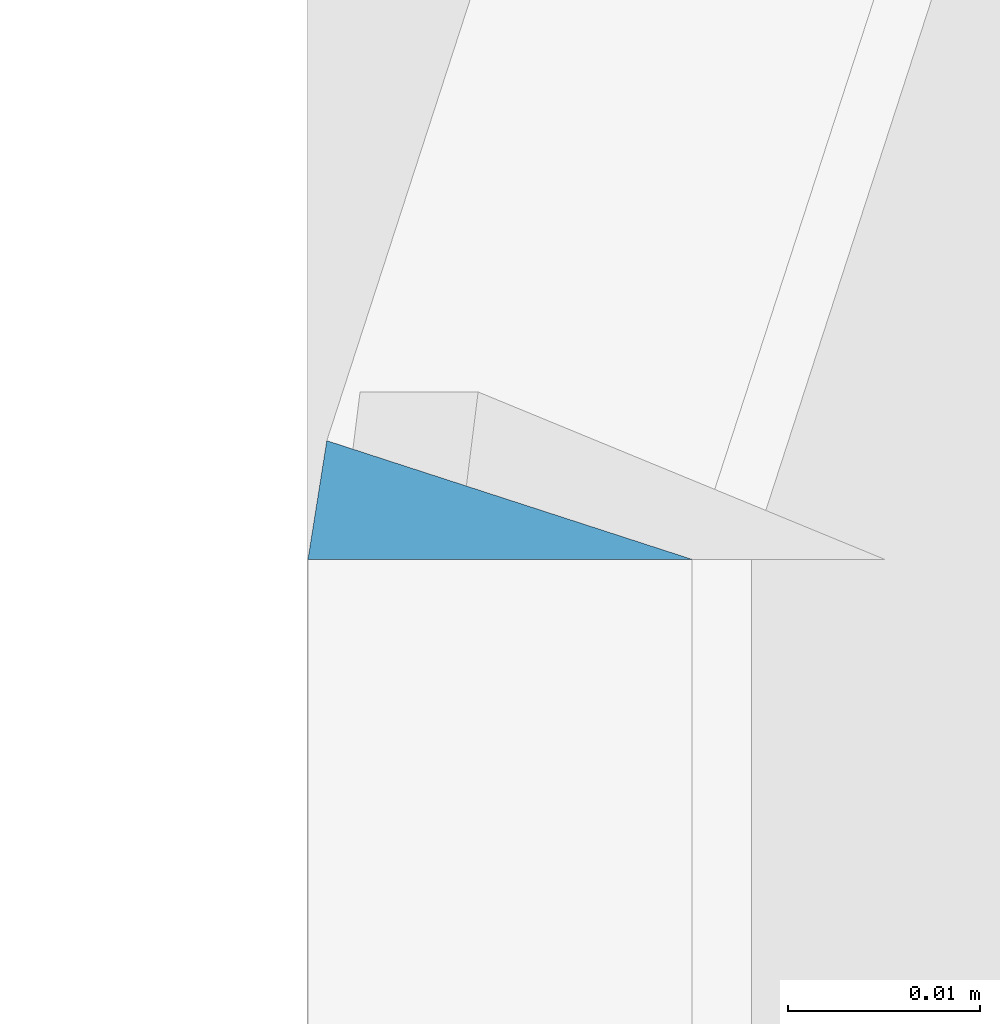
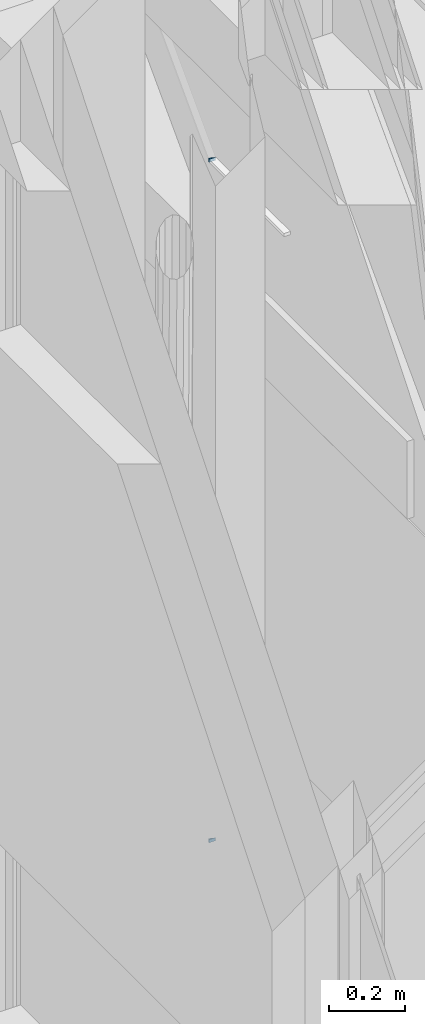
# One storey, part 316 of 583: 2 slabs.
"""IFC2X3 building model written with IfcOpenShell, lengths in metres."""

import ifcopenshell
import ifcopenshell.guid

model = None  # the IFC model being written
_history = None  # IfcOwnerHistory: only IFC2X3 demands one
_inside = {}  # id of a spatial element -> (the spatial element, [elements in it])
_under = {}  # id of a project, library or spatial element -> (it, [spatial elements below it])
_declared = {}  # id of a project -> (the project, [libraries it declares])
_typed = {}  # id of a type object -> (the type object, [elements of that type])
_made_of = {}  # id of a material, layer set ... -> (it, [elements and type objects made of it])


def new_model(schema):
    """Start an empty IFC model of exactly this schema.

    Asked for "IFC4X3", IfcOpenShell would pick the latest addendum, in which some entities
    have other attributes; the version numbers below select the first issue.
    IFC2X3 requires an IfcOwnerHistory on every rooted entity: one is made here for all.
    """
    global model, _history
    if schema == "IFC4X3":
        model = ifcopenshell.file(schema_version=(4, 3, 0, 0))
    else:
        model = ifcopenshell.file(schema=schema)
    _inside.clear()
    _under.clear()
    _declared.clear()
    _typed.clear()
    _made_of.clear()
    _history = None
    if model.schema == "IFC2X3":
        org = make("IfcOrganization", Name="unknown")
        user = make(
            "IfcPersonAndOrganization",
            ThePerson=make("IfcPerson", FamilyName="unknown"),
            TheOrganization=org,
        )
        app = make(
            "IfcApplication",
            ApplicationDeveloper=org,
            Version="unknown",
            ApplicationFullName="unknown",
            ApplicationIdentifier="unknown",
        )
        _history = make(
            "IfcOwnerHistory",
            OwningUser=user,
            OwningApplication=app,
            ChangeAction="ADDED",
            CreationDate=0,
        )
    return model


def make(cls, **values):
    """One entity of the class cls with the attributes given. An attribute that is None is left unset."""
    return model.create_entity(
        cls, **{name: value for name, value in values.items() if value is not None}
    )


def entity(cls, *values):
    """Any entity or typed value of the class cls, its attributes in the order of the schema. None: left unset."""
    e = model.create_entity(cls)
    for i, value in enumerate(values):
        if value is not None:
            e[i] = value
    return e


def rooted(cls, **values):
    """An entity with a GlobalId (a new one), such as an element, a storey or a relation."""
    return make(cls, GlobalId=ifcopenshell.guid.new(), OwnerHistory=_history, **values)


def si_unit(unit_type, name, prefix=None):
    """IfcSIUnit, for example si_unit("LENGTHUNIT", "METRE", prefix="MILLI")."""
    return make("IfcSIUnit", UnitType=unit_type, Prefix=prefix, Name=name)


def converted_unit(unit_type, name, factor, base, dimensions=None, offset=None):
    """IfcConversionBasedUnit, such as the inch: factor (a typed value) times the base unit."""
    return make(
        "IfcConversionBasedUnit"
        if offset is None
        else "IfcConversionBasedUnitWithOffset",
        ConversionOffset=offset,
        Dimensions=None
        if dimensions is None
        else entity("IfcDimensionalExponents", *dimensions),
        UnitType=unit_type,
        Name=name,
        ConversionFactor=make(
            "IfcMeasureWithUnit", ValueComponent=factor, UnitComponent=base
        ),
    )


def derived_unit(unit_type, elements):
    """IfcDerivedUnit: a product of units, each with its exponent."""
    return make(
        "IfcDerivedUnit",
        Elements=[
            make("IfcDerivedUnitElement", Unit=unit, Exponent=power)
            for unit, power in elements
        ],
        UnitType=unit_type,
    )


def money_unit(currency):
    """IfcMonetaryUnit."""
    return make("IfcMonetaryUnit", Currency=currency)


def assignment(units):
    """IfcUnitAssignment: the units of a project."""
    return None if units is None else make("IfcUnitAssignment", Units=units)


def point(xyz):
    """IfcCartesianPoint."""
    return None if xyz is None else make("IfcCartesianPoint", Coordinates=xyz)


def direction(xyz):
    """IfcDirection."""
    return None if xyz is None else make("IfcDirection", DirectionRatios=xyz)


def frame(location, z_axis=None, x_axis=None):
    """IfcAxis2Placement3D, a coordinate frame: its origin and axes. An axis left out is left unset."""
    return make(
        "IfcAxis2Placement3D",
        Location=point(location),
        Axis=direction(z_axis),
        RefDirection=direction(x_axis),
    )


def origin_with_axes():
    """The frame at (0, 0, 0) with the z axis (0, 0, 1) and the x axis (1, 0, 0) written out."""
    return frame((0.0, 0.0, 0.0), z_axis=(0.0, 0.0, 1.0), x_axis=(1.0, 0.0, 0.0))


def place(relative_to, where):
    """IfcLocalPlacement: puts the frame where relative to a parent placement (None: the world)."""
    return make(
        "IfcLocalPlacement", PlacementRelTo=relative_to, RelativePlacement=where
    )


def context(
    kind, dimensions, precision=None, world=None, true_north=None, identifier=None
):
    """IfcGeometricRepresentationContext, for example the 3D "Model" context."""
    return make(
        "IfcGeometricRepresentationContext",
        ContextIdentifier=identifier,
        ContextType=kind,
        CoordinateSpaceDimension=dimensions,
        Precision=precision,
        WorldCoordinateSystem=world,
        TrueNorth=true_north,
    )


def subcontext(parent, identifier, kind, view, scale=None):
    """IfcGeometricRepresentationSubContext, for example "Body" below "Model"."""
    return make(
        "IfcGeometricRepresentationSubContext",
        ContextIdentifier=identifier,
        ContextType=kind,
        ParentContext=parent,
        TargetScale=scale,
        TargetView=view,
    )


def project(units=None, contexts=None):
    """IfcProject with its units and contexts."""
    return rooted(
        "IfcProject",
        Name="project",
        RepresentationContexts=contexts,
        UnitsInContext=assignment(units),
    )


def spatial(cls, under=None, at=None, **own):
    """A site, building, storey or space (cls), placed at a placement, below another one or the project."""
    s = rooted(cls, ObjectPlacement=at, **own)
    if under is not None:
        _under.setdefault(under.id(), (under, []))[1].append(s)
    return s


def faces_of(points, faces, orient=None, outer=None):
    """IfcFace entities. A face is a list of loops; a loop is a list of indices into points, from 0.

    orient and outer hold one flag for each loop. By default every Orientation is true, the
    first loop of a face is its IfcFaceOuterBound and the others are IfcFaceBound.
    """
    made = []
    for i, loops in enumerate(faces):
        bounds = []
        for j, loop in enumerate(loops):
            is_outer = j == 0 if outer is None else outer[i][j]
            bounds.append(
                make(
                    "IfcFaceOuterBound" if is_outer else "IfcFaceBound",
                    Bound=make("IfcPolyLoop", Polygon=[points[k] for k in loop]),
                    Orientation=True if orient is None else orient[i][j],
                )
            )
        made.append(make("IfcFace", Bounds=bounds))
    return made


def faceted_brep(points, faces, orient=None, outer=None, voids=None):
    """IfcFacetedBrep: a solid bounded by flat faces; with voids (closed shells), ...WithVoids."""
    shared = [point(p) for p in points]
    hull = make("IfcClosedShell", CfsFaces=faces_of(shared, faces, orient, outer))
    if voids is None:
        return make("IfcFacetedBrep", Outer=hull)
    return make(
        "IfcFacetedBrepWithVoids",
        Outer=hull,
        Voids=[
            make(cls, CfsFaces=faces_of(shared, fs, o, b)) for cls, fs, o, b in voids
        ],
    )


def shape(context_of_items, identifier, shape_type, items):
    """IfcShapeRepresentation: the items that make up one representation, for example the "Body"."""
    return make(
        "IfcShapeRepresentation",
        ContextOfItems=context_of_items,
        RepresentationIdentifier=identifier,
        RepresentationType=shape_type,
        Items=items,
    )


def material(Name=None, Category=None):
    """IfcMaterial."""
    return make("IfcMaterial", Name=Name, Category=Category)


def made_of(thing, what):
    """Note that an element or type object is made of a material, layer set ...; save() writes the relation."""
    if what is not None:
        _made_of.setdefault(what.id(), (what, []))[1].append(thing)
    return thing


def type_object(cls, material=None, **own):
    """A type object (cls), such as IfcWallType, which elements share."""
    return made_of(rooted(cls, **own), material)


def element(
    cls,
    number,
    at=None,
    inside=None,
    cuts=None,
    type_object=None,
    material=None,
    context=None,
    identifier="Body",
    shape_type=None,
    held_by="IfcProductDefinitionShape",
    body=None,
    shapes=None,
    **own,
):
    """One element of the class cls, such as IfcWall. Its Tag is "e" and its number.

    at: its placement. inside: the storey or other place that contains it. cuts: it is an
    opening in that element (IfcRelVoidsElement). A single representation is given by context,
    identifier, shape_type and body (its items); several are given by shapes. held_by: the class
    of the entity that holds the representations. save() writes the other relations.
    """
    e = rooted(cls, Tag="e%d" % number, ObjectPlacement=at, **own)
    if body is not None:
        shapes = [shape(context, identifier, shape_type, body)]
    if shapes is not None:
        e.Representation = make(held_by, Representations=shapes)
    if inside is not None:
        _inside.setdefault(inside.id(), (inside, []))[1].append(e)
    if cuts is not None:
        rooted(
            "IfcRelVoidsElement", RelatingBuildingElement=cuts, RelatedOpeningElement=e
        )
    if type_object is not None:
        _typed.setdefault(type_object.id(), (type_object, []))[1].append(e)
    return made_of(e, material)


def aggregate(whole, parts):
    """IfcRelAggregates: a whole, such as a stair, and the parts it consists of."""
    return rooted("IfcRelAggregates", RelatingObject=whole, RelatedObjects=parts)


def save(model, path):
    """Write the relations noted so far, then the file.

    IfcRelAggregates (storeys below a building ...), IfcRelContainedInSpatialStructure (elements
    in a storey), IfcRelDefinesByType, IfcRelAssociatesMaterial and IfcRelDeclares: one each for
    every whole, place, type object, material and project.
    """
    for whole, parts in _under.values():
        aggregate(whole, parts)
    for where, things in _inside.values():
        rooted(
            "IfcRelContainedInSpatialStructure",
            RelatedElements=things,
            RelatingStructure=where,
        )
    for kind, things in _typed.values():
        rooted("IfcRelDefinesByType", RelatedObjects=things, RelatingType=kind)
    for what, things in _made_of.values():
        rooted("IfcRelAssociatesMaterial", RelatedObjects=things, RelatingMaterial=what)
    for by, libraries in _declared.values():
        rooted("IfcRelDeclares", RelatingContext=by, RelatedDefinitions=libraries)
    model.write(path)


model = new_model("IFC2X3")

# Units and contexts
model_context = context("Model", 3, precision=1e-05, world=origin_with_axes(), true_north=direction((0.0, 1.0)))
body_context = subcontext(model_context, "Body", "Model", "MODEL_VIEW", scale=1.0)
ifc_project = project(units=[si_unit("LENGTHUNIT", "METRE"), si_unit("AREAUNIT", "SQUARE_METRE"), si_unit("VOLUMEUNIT", "CUBIC_METRE"), si_unit("ABSORBEDDOSEUNIT", "GRAY"), si_unit("AMOUNTOFSUBSTANCEUNIT", "MOLE"), si_unit("DOSEEQUIVALENTUNIT", "SIEVERT"), si_unit("ELECTRICCAPACITANCEUNIT", "FARAD"), si_unit("ELECTRICCHARGEUNIT", "COULOMB"), si_unit("ELECTRICCONDUCTANCEUNIT", "SIEMENS"), si_unit("ELECTRICCURRENTUNIT", "AMPERE"), si_unit("ELECTRICRESISTANCEUNIT", "OHM"), si_unit("ELECTRICVOLTAGEUNIT", "VOLT"), si_unit("ENERGYUNIT", "JOULE"), si_unit("FORCEUNIT", "NEWTON"), si_unit("FREQUENCYUNIT", "HERTZ"), si_unit("ILLUMINANCEUNIT", "LUX"), si_unit("INDUCTANCEUNIT", "HENRY"), si_unit("LUMINOUSFLUXUNIT", "LUMEN"), si_unit("LUMINOUSINTENSITYUNIT", "CANDELA"), si_unit("MAGNETICFLUXDENSITYUNIT", "TESLA"), si_unit("MAGNETICFLUXUNIT", "WEBER"), si_unit("MASSUNIT", "GRAM"), converted_unit("PLANEANGLEUNIT", "degree", entity("IfcReal", 0.0174532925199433), si_unit("PLANEANGLEUNIT", "RADIAN"), dimensions=[0, 0, 0, 0, 0, 0, 0]), si_unit("POWERUNIT", "WATT"), si_unit("PRESSUREUNIT", "PASCAL"), si_unit("RADIOACTIVITYUNIT", "BECQUEREL"), si_unit("SOLIDANGLEUNIT", "STERADIAN"), si_unit("THERMODYNAMICTEMPERATUREUNIT", "KELVIN"), si_unit("TIMEUNIT", "SECOND"), derived_unit("ACCELERATIONUNIT", [(si_unit("LENGTHUNIT", "METRE"), 1), (si_unit("TIMEUNIT", "SECOND"), -2)]), derived_unit("ANGULARVELOCITYUNIT", [(converted_unit("PLANEANGLEUNIT", "degree", entity("IfcReal", 0.0174532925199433), si_unit("PLANEANGLEUNIT", "RADIAN"), dimensions=[0, 0, 0, 0, 0, 0, 0]), 1), (si_unit("TIMEUNIT", "SECOND"), -1)]), derived_unit("CURVATUREUNIT", [(converted_unit("PLANEANGLEUNIT", "degree", entity("IfcReal", 0.0174532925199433), si_unit("PLANEANGLEUNIT", "RADIAN"), dimensions=[0, 0, 0, 0, 0, 0, 0]), 1), (si_unit("LENGTHUNIT", "METRE"), -1)]), derived_unit("DYNAMICVISCOSITYUNIT", [(si_unit("PRESSUREUNIT", "PASCAL"), 1), (si_unit("TIMEUNIT", "SECOND"), 1)]), derived_unit("HEATFLUXDENSITYUNIT", [(si_unit("POWERUNIT", "WATT"), 1), (si_unit("LENGTHUNIT", "METRE"), -2)]), derived_unit("HEATINGVALUEUNIT", [(si_unit("ENERGYUNIT", "JOULE"), 1), (si_unit("MASSUNIT", "GRAM"), -1)]), derived_unit("INTEGERCOUNTRATEUNIT", [(si_unit("TIMEUNIT", "SECOND"), -1)]), derived_unit("IONCONCENTRATIONUNIT", [(si_unit("MASSUNIT", "GRAM"), 1), (si_unit("VOLUMEUNIT", "CUBIC_METRE"), -1)]), derived_unit("ISOTHERMALMOISTURECAPACITYUNIT", [(si_unit("VOLUMEUNIT", "CUBIC_METRE"), 1), (si_unit("MASSUNIT", "GRAM"), -1)]), derived_unit("KINEMATICVISCOSITYUNIT", [(si_unit("AREAUNIT", "SQUARE_METRE"), 1), (si_unit("TIMEUNIT", "SECOND"), -1)]), derived_unit("LINEARFORCEUNIT", [(si_unit("FORCEUNIT", "NEWTON"), 1), (si_unit("LENGTHUNIT", "METRE"), -1)]), derived_unit("LINEARMOMENTUNIT", [(si_unit("FORCEUNIT", "NEWTON"), 1), (si_unit("LENGTHUNIT", "METRE"), -1)]), derived_unit("LINEARSTIFFNESSUNIT", [(si_unit("FORCEUNIT", "NEWTON"), 1), (si_unit("LENGTHUNIT", "METRE"), -1)]), derived_unit("LINEARVELOCITYUNIT", [(si_unit("LENGTHUNIT", "METRE"), 1), (si_unit("TIMEUNIT", "SECOND"), -1)]), derived_unit("LUMINOUSINTENSITYDISTRIBUTIONUNIT", [(si_unit("LUMINOUSINTENSITYUNIT", "CANDELA"), 1), (si_unit("LUMINOUSFLUXUNIT", "LUMEN"), -1)]), derived_unit("MASSDENSITYUNIT", [(si_unit("MASSUNIT", "GRAM"), 1), (si_unit("VOLUMEUNIT", "CUBIC_METRE"), -1)]), derived_unit("MASSFLOWRATEUNIT", [(si_unit("MASSUNIT", "GRAM"), 1), (si_unit("TIMEUNIT", "SECOND"), -1)]), derived_unit("MASSPERLENGTHUNIT", [(si_unit("MASSUNIT", "GRAM"), 1), (si_unit("LENGTHUNIT", "METRE"), -1)]), derived_unit("MODULUSOFELASTICITYUNIT", [(si_unit("FORCEUNIT", "NEWTON"), 1), (si_unit("AREAUNIT", "SQUARE_METRE"), -1)]), derived_unit("MODULUSOFLINEARSUBGRADEREACTIONUNIT", [(si_unit("FORCEUNIT", "NEWTON"), 1), (si_unit("LENGTHUNIT", "METRE"), -2)]), derived_unit("MODULUSOFROTATIONALSUBGRADEREACTIONUNIT", [(si_unit("FORCEUNIT", "NEWTON"), 1), (si_unit("LENGTHUNIT", "METRE"), 1)]), derived_unit("MODULUSOFSUBGRADEREACTIONUNIT", [(si_unit("FORCEUNIT", "NEWTON"), 1), (si_unit("VOLUMEUNIT", "CUBIC_METRE"), -1)]), derived_unit("MOISTUREDIFFUSIVITYUNIT", [(si_unit("VOLUMEUNIT", "CUBIC_METRE"), 1), (si_unit("TIMEUNIT", "SECOND"), -1)]), derived_unit("MOLECULARWEIGHTUNIT", [(si_unit("MASSUNIT", "GRAM"), 1), (si_unit("AMOUNTOFSUBSTANCEUNIT", "MOLE"), -1)]), derived_unit("PLANARFORCEUNIT", [(si_unit("FORCEUNIT", "NEWTON"), 1), (si_unit("LENGTHUNIT", "METRE"), -2)]), derived_unit("ROTATIONALFREQUENCYUNIT", [(si_unit("TIMEUNIT", "SECOND"), -1)]), derived_unit("ROTATIONALMASSUNIT", [(si_unit("MASSUNIT", "GRAM"), 1), (si_unit("LENGTHUNIT", "METRE"), 2)]), derived_unit("ROTATIONALSTIFFNESSUNIT", [(si_unit("FORCEUNIT", "NEWTON"), 1), (si_unit("LENGTHUNIT", "METRE"), 1), (converted_unit("PLANEANGLEUNIT", "degree", entity("IfcReal", 0.0174532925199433), si_unit("PLANEANGLEUNIT", "RADIAN"), dimensions=[0, 0, 0, 0, 0, 0, 0]), -1)]), derived_unit("SECTIONAREAINTEGRALUNIT", [(si_unit("LENGTHUNIT", "METRE"), 5)]), derived_unit("SECTIONMODULUSUNIT", [(si_unit("LENGTHUNIT", "METRE"), 3)]), derived_unit("SHEARMODULUSUNIT", [(si_unit("FORCEUNIT", "NEWTON"), 1), (si_unit("AREAUNIT", "SQUARE_METRE"), -1)]), derived_unit("SOUNDPOWERUNIT", [(si_unit("ENERGYUNIT", "JOULE"), 1), (si_unit("TIMEUNIT", "SECOND"), -1)]), derived_unit("SPECIFICHEATCAPACITYUNIT", [(si_unit("FORCEUNIT", "NEWTON"), 1), (si_unit("MASSUNIT", "GRAM"), -1), (si_unit("THERMODYNAMICTEMPERATUREUNIT", "KELVIN"), -1)]), derived_unit("TEMPERATUREGRADIENTUNIT", [(si_unit("THERMODYNAMICTEMPERATUREUNIT", "KELVIN"), 1), (si_unit("LENGTHUNIT", "METRE"), -1)]), derived_unit("THERMALADMITTANCEUNIT", [(si_unit("POWERUNIT", "WATT"), 1), (si_unit("AREAUNIT", "SQUARE_METRE"), -1), (si_unit("THERMODYNAMICTEMPERATUREUNIT", "KELVIN"), -1)]), derived_unit("THERMALCONDUCTANCEUNIT", [(si_unit("POWERUNIT", "WATT"), 1), (si_unit("LENGTHUNIT", "METRE"), -1), (si_unit("THERMODYNAMICTEMPERATUREUNIT", "KELVIN"), -1)]), derived_unit("THERMALEXPANSIONCOEFFICIENTUNIT", [(si_unit("THERMODYNAMICTEMPERATUREUNIT", "KELVIN"), -1)]), derived_unit("THERMALRESISTANCEUNIT", [(si_unit("AREAUNIT", "SQUARE_METRE"), 1), (si_unit("POWERUNIT", "WATT"), -1)]), derived_unit("THERMALTRANSMITTANCEUNIT", [(si_unit("POWERUNIT", "WATT"), 1), (si_unit("AREAUNIT", "SQUARE_METRE"), -1), (si_unit("THERMODYNAMICTEMPERATUREUNIT", "KELVIN"), -1)]), derived_unit("TORQUEUNIT", [(si_unit("FORCEUNIT", "NEWTON"), 1), (si_unit("LENGTHUNIT", "METRE"), 1)]), derived_unit("VAPORPERMEABILITYUNIT", [(si_unit("MASSUNIT", "GRAM"), 1), (si_unit("TIMEUNIT", "SECOND"), -1)]), derived_unit("VOLUMETRICFLOWRATEUNIT", [(si_unit("VOLUMEUNIT", "CUBIC_METRE"), 1), (si_unit("TIMEUNIT", "SECOND"), -1)]), derived_unit("WARPINGCONSTANTUNIT", [(si_unit("LENGTHUNIT", "METRE"), 6)]), derived_unit("WARPINGMOMENTUNIT", [(si_unit("FORCEUNIT", "NEWTON"), 1), (si_unit("LENGTHUNIT", "METRE"), 2)]), money_unit("GBP")], contexts=[model_context])

# Site, building, storey
site_placement = place(None, origin_with_axes())
site = spatial("IfcSite", under=ifc_project, at=site_placement, Name="Site", CompositionType="ELEMENT")
building_placement = place(site_placement, origin_with_axes())
building = spatial("IfcBuilding", under=site, at=building_placement, Name="Building01", CompositionType="ELEMENT")
storey_placement = place(building_placement, frame((0.0, 0.0, 20.78), z_axis=(0.0, 0.0, 1.0), x_axis=(1.0, 0.0, 0.0)))
storey = spatial("IfcBuildingStorey", under=building, at=storey_placement, Name="RL", CompositionType="ELEMENT", Elevation=20.78)

# Slabs
ifc_material = material(Name="A_BSUK_Roofs")
slab_type = type_object("IfcSlabType", Name="A-FloorsSlabs A_BSUK_Slabs", PredefinedType="FLOOR")
for number, where, z_axis, x_axis, name in (
    (1, (0.500979, 16.280608, -7.284976), (0.0, 1.0, 0.0), (0.0, 0.0, 1.0), "A-FloorsSlabs A_BSUK_Slabs"),
    (2, (0.500979, 16.280608, -5.094976), (0.0, 1.0, 0.0), (0.0, 0.0, 1.0), "A-FloorsSlabs A_BSUK_Slabs"),
):
    element("IfcSlab", number, at=place(storey_placement, frame(where, z_axis=z_axis, x_axis=x_axis)), inside=storey, type_object=slab_type, material=ifc_material, Name=name, ObjectType="A-FloorsSlabs A_BSUK_Slabs", context=body_context, shape_type="Brep", body=[
        faceted_brep([(0.0, -0.000979, -0.00618), (0.01, -0.000979, -0.00618), (0.01, 0.0, 0.0), (0.0, 0.0, 0.0), (0.0, 0.019021, -0.00618), (0.01, 0.019021, -0.00618)], [[[0, 1, 2, 3]], [[4, 5, 1, 0]], [[3, 2, 5, 4]], [[1, 5, 2]], [[3, 4, 0]]]),
    ])

save(model, "model.ifc")
